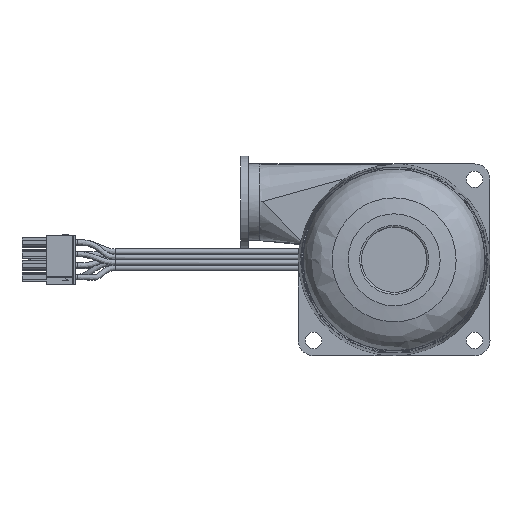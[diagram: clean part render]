
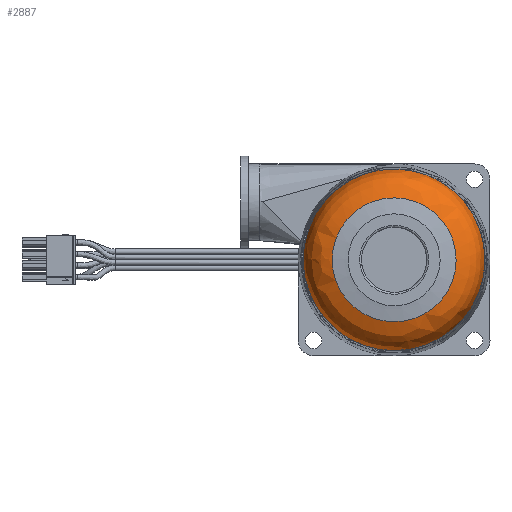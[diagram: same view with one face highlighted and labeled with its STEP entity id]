
A CAD part, left-side view. The second image highlights one B-rep face of the part: STEP entity #2887.
In plain terms, the highlighted free-form (B-spline) face has degree [2, 2] with [7, 3] control points.
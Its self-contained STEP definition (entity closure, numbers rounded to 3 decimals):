
#77=(
BOUNDED_SURFACE()
B_SPLINE_SURFACE(2,2,((#14113,#14114,#14115),(#14116,#14117,#14118),(#14119,
#14120,#14121),(#14122,#14123,#14124),(#14125,#14126,#14127),(#14128,#14129,
#14130),(#14131,#14132,#14133)),.UNSPECIFIED.,.T.,.F.,.F.)
B_SPLINE_SURFACE_WITH_KNOTS((1,2,2,2,2,1),(3,3),(-0.333,0.,0.333,
0.667,1.,1.333),(0.,1.),.UNSPECIFIED.)
GEOMETRIC_REPRESENTATION_ITEM()
RATIONAL_B_SPLINE_SURFACE(((1.,0.772,1.),(0.5,0.386,
0.5),(1.,0.772,1.),(0.5,0.386,0.5),(1.,0.772,
1.),(0.5,0.386,0.5),(1.,0.772,1.)))
REPRESENTATION_ITEM('')
SURFACE()
);
#2887=ADVANCED_FACE('',(#3725,#3726),#77,.T.);
#3725=FACE_BOUND('',#4071,.T.);
#3726=FACE_BOUND('',#4072,.T.);
#4071=EDGE_LOOP('',(#5094));
#4072=EDGE_LOOP('',(#5095));
#5094=ORIENTED_EDGE('',*,*,#8609,.T.);
#5095=ORIENTED_EDGE('',*,*,#8610,.T.);
#7590=VERTEX_POINT('',#14110);
#7591=VERTEX_POINT('',#14112);
#8609=EDGE_CURVE('',#7590,#7590,#9794,.T.);
#8610=EDGE_CURVE('',#7591,#7591,#9795,.T.);
#9794=CIRCLE('',#10112,16.166);
#9795=CIRCLE('',#10113,23.678);
#10112=AXIS2_PLACEMENT_3D('',#14109,#11178,#11179);
#10113=AXIS2_PLACEMENT_3D('',#14111,#11180,#11181);
#11178=DIRECTION('',(1.,0.,0.));
#11179=DIRECTION('',(0.,1.,0.007));
#11180=DIRECTION('',(-1.,0.,0.));
#11181=DIRECTION('',(0.,1.,0.007));
#14109=CARTESIAN_POINT('',(-37.153,12.155,-44.453));
#14110=CARTESIAN_POINT('',(-37.153,28.321,-44.336));
#14111=CARTESIAN_POINT('',(-28.512,12.155,-44.453));
#14112=CARTESIAN_POINT('',(-28.512,35.832,-44.282));
#14113=CARTESIAN_POINT('',(-28.512,35.832,-44.282));
#14114=CARTESIAN_POINT('',(-35.929,35.637,-44.283));
#14115=CARTESIAN_POINT('',(-37.153,28.321,-44.336));
#14116=CARTESIAN_POINT('',(-28.512,36.128,-85.292));
#14117=CARTESIAN_POINT('',(-35.929,35.931,-84.956));
#14118=CARTESIAN_POINT('',(-37.153,28.523,-72.336));
#14119=CARTESIAN_POINT('',(-28.512,0.464,-65.044));
#14120=CARTESIAN_POINT('',(-35.929,0.561,-64.875));
#14121=CARTESIAN_POINT('',(-37.153,4.173,-58.512));
#14122=CARTESIAN_POINT('',(-28.512,-35.199,-44.795));
#14123=CARTESIAN_POINT('',(-35.929,-34.81,-44.793));
#14124=CARTESIAN_POINT('',(-37.153,-20.177,-44.687));
#14125=CARTESIAN_POINT('',(-28.512,0.168,-24.034));
#14126=CARTESIAN_POINT('',(-35.929,0.267,-24.202));
#14127=CARTESIAN_POINT('',(-37.153,3.971,-30.512));
#14128=CARTESIAN_POINT('',(-28.512,35.536,-3.272));
#14129=CARTESIAN_POINT('',(-35.929,35.343,-3.611));
#14130=CARTESIAN_POINT('',(-37.153,28.118,-16.336));
#14131=CARTESIAN_POINT('',(-28.512,35.832,-44.282));
#14132=CARTESIAN_POINT('',(-35.929,35.637,-44.283));
#14133=CARTESIAN_POINT('',(-37.153,28.321,-44.336));
